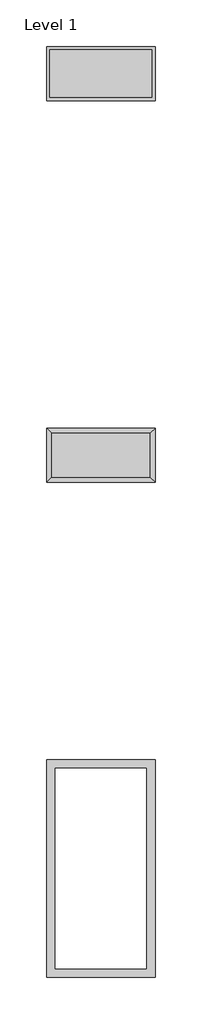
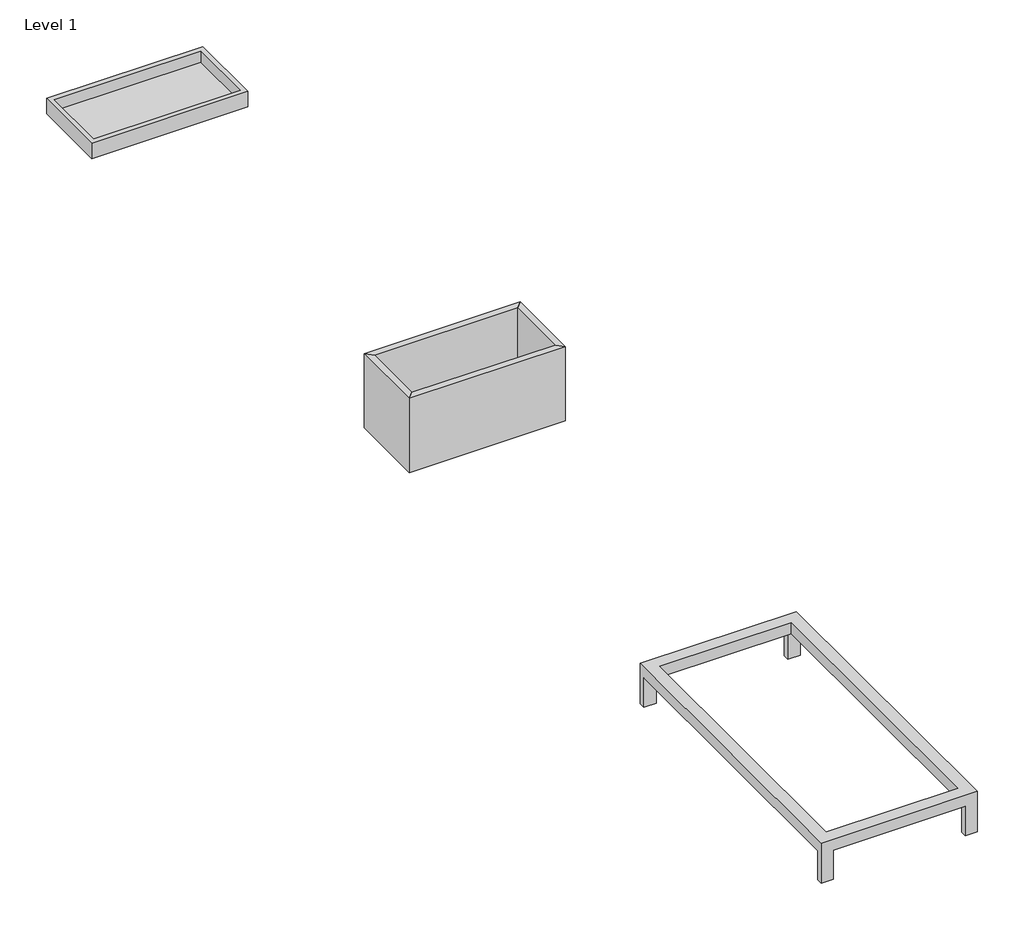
# One storey, incomplete: 3 proxies.
"""IFC4 building model written with IfcOpenShell, lengths in millimetres."""

from ifc_helpers import new_model, si_unit, origin, place, context, project, spatial, transform, mapped, element, save
from components import size_190mm_e11b31ef, size_190mm_53cb0618, size_760_mm_frame_color_24_black_structure_79f51c7b

model = new_model("IFC4")

# Units and contexts
model_context = context("Model", 3, world=origin())
ifc_project = project(units=[si_unit("LENGTHUNIT", "METRE", prefix="MILLI")], contexts=[model_context])

# Site, building, storey
site = spatial("IfcSite", under=ifc_project)
building = spatial("IfcBuilding", under=site)
storey = spatial("IfcBuildingStorey", under=building, Name="Level 1", Elevation=0.0)

# Proxies
placement = place(None, origin())
size_190mm_shape = size_190mm_e11b31ef(model_context)
element("IfcBuildingElementProxy", 1, Name="efg_create_storage_storage_box : Size - (190mm)", ObjectType="efg_create_storage_storage_box : Size - (190mm)", at=placement, inside=storey, context=model_context, shape_type="MappedRepresentation", body=[
    mapped(size_190mm_shape, transform((517.3611111, 2402.7777778, 0.0), x_axis=(1.0, 0.0, 0.0), y_axis=(0.0, 1.0, 0.0), z_axis=(0.0, 0.0, 1.0))),
])
size_190mm_2_shape = size_190mm_53cb0618(model_context)
element("IfcBuildingElementProxy", 2, Name="efg_create_storage_wooden_tray : Size - (190mm)", ObjectType="efg_create_storage_wooden_tray : Size - (190mm)", at=placement, inside=storey, context=model_context, shape_type="MappedRepresentation", body=[
    mapped(size_190mm_2_shape, transform((517.3611111, 3736.1111111, 0.0), x_axis=(1.0, 0.0, 0.0), y_axis=(0.0, 1.0, 0.0), z_axis=(0.0, 0.0, 1.0))),
])
size_760_mm_frame_color_24_black_structure_shape = size_760_mm_frame_color_24_black_structure_79f51c7b(model_context)
element("IfcBuildingElementProxy", 3, Name="efg_create_storage_leg_frame : Size - (760 mm) Frame Color - (24 Black Structure)", ObjectType="efg_create_storage_leg_frame : Size - (760 mm) Frame Color - (24 Black Structure)", at=placement, inside=storey, context=model_context, shape_type="MappedRepresentation", body=[
    mapped(size_760_mm_frame_color_24_black_structure_shape, transform((517.3611111, 958.3333333, 0.0), x_axis=(1.0, 0.0, 0.0), y_axis=(0.0, 1.0, 0.0), z_axis=(0.0, 0.0, 1.0))),
])

save(model, "model.ifc")
